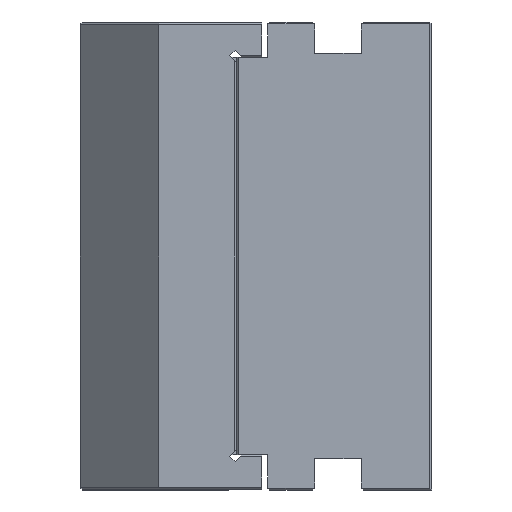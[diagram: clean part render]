
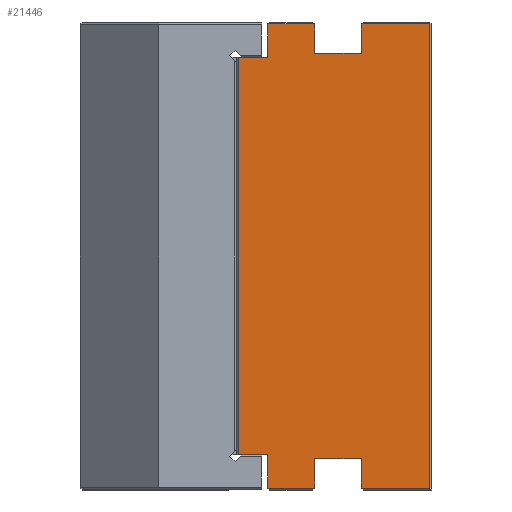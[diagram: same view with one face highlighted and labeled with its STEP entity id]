
A CAD part, left-side view. The second image highlights one B-rep face of the part: STEP entity #21446.
In plain terms, the highlighted planar face has unit normal (-1, 0, 0).
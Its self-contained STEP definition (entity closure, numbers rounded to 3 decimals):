
#47 = VERTEX_POINT ( 'NONE', #13740 ) ;
#470 = CARTESIAN_POINT ( 'NONE',  ( 0., 49.5, -51. ) ) ;
#1494 = DIRECTION ( 'NONE',  ( 1., 0., 0. ) ) ;
#1924 = VECTOR ( 'NONE', #12661, 1000. ) ;
#2490 = CARTESIAN_POINT ( 'NONE',  ( 0., 42., 60. ) ) ;
#2799 = VERTEX_POINT ( 'NONE', #8380 ) ;
#2819 = VECTOR ( 'NONE', #3204, 1000. ) ;
#2897 = ORIENTED_EDGE ( 'NONE', *, *, #5842, .T. ) ;
#2901 = CARTESIAN_POINT ( 'NONE',  ( 0., 30., 60. ) ) ;
#2968 = CARTESIAN_POINT ( 'NONE',  ( 0., 18., 52. ) ) ;
#3200 = DIRECTION ( 'NONE',  ( 0., 0., 1. ) ) ;
#3204 = DIRECTION ( 'NONE',  ( 0., 1., 0. ) ) ;
#3238 = ORIENTED_EDGE ( 'NONE', *, *, #16165, .T. ) ;
#3545 = VERTEX_POINT ( 'NONE', #16299 ) ;
#4046 = VECTOR ( 'NONE', #15109, 1000. ) ;
#4327 = ORIENTED_EDGE ( 'NONE', *, *, #11453, .F. ) ;
#4419 = VERTEX_POINT ( 'NONE', #20061 ) ;
#4963 = VERTEX_POINT ( 'NONE', #18406 ) ;
#5543 = LINE ( 'NONE', #22139, #15079 ) ;
#5594 = CARTESIAN_POINT ( 'NONE',  ( 0., 18., 59.5 ) ) ;
#5596 = CARTESIAN_POINT ( 'NONE',  ( 0., 30., -59.5 ) ) ;
#5842 = EDGE_CURVE ( 'NONE', #18936, #17801, #8728, .T. ) ;
#5887 = ORIENTED_EDGE ( 'NONE', *, *, #16866, .T. ) ;
#6045 = DIRECTION ( 'NONE',  ( 0., 0., -1. ) ) ;
#7034 = VERTEX_POINT ( 'NONE', #21805 ) ;
#7165 = VERTEX_POINT ( 'NONE', #15033 ) ;
#7184 = EDGE_CURVE ( 'NONE', #4963, #47, #18914, .T. ) ;
#7319 = VECTOR ( 'NONE', #12259, 1000. ) ;
#7420 = VECTOR ( 'NONE', #21899, 1000. ) ;
#7544 = VECTOR ( 'NONE', #21159, 1000. ) ;
#8115 = ORIENTED_EDGE ( 'NONE', *, *, #18442, .T. ) ;
#8127 = CARTESIAN_POINT ( 'NONE',  ( 0., 30., 59.5 ) ) ;
#8129 = EDGE_CURVE ( 'NONE', #4419, #17801, #11912, .T. ) ;
#8179 = VECTOR ( 'NONE', #16326, 1000. ) ;
#8214 = EDGE_CURVE ( 'NONE', #18936, #22404, #9100, .T. ) ;
#8380 = CARTESIAN_POINT ( 'NONE',  ( 0., 49.5, 51. ) ) ;
#8528 = LINE ( 'NONE', #16672, #13257 ) ;
#8562 = CARTESIAN_POINT ( 'NONE',  ( 0., 42., -60. ) ) ;
#8662 = EDGE_CURVE ( 'NONE', #18942, #7165, #14091, .T. ) ;
#8676 = VECTOR ( 'NONE', #3200, 1000. ) ;
#8728 = LINE ( 'NONE', #5596, #8179 ) ;
#9032 = ORIENTED_EDGE ( 'NONE', *, *, #15186, .F. ) ;
#9100 = LINE ( 'NONE', #8562, #18050 ) ;
#9728 = EDGE_CURVE ( 'NONE', #18942, #47, #17108, .T. ) ;
#9754 = FACE_OUTER_BOUND ( 'NONE', #20829, .T. ) ;
#9799 = ORIENTED_EDGE ( 'NONE', *, *, #18302, .F. ) ;
#9813 = EDGE_CURVE ( 'NONE', #2799, #4963, #18496, .T. ) ;
#9877 = ORIENTED_EDGE ( 'NONE', *, *, #11313, .T. ) ;
#10251 = AXIS2_PLACEMENT_3D ( 'NONE', #22870, #1494, #14009 ) ;
#10462 = ORIENTED_EDGE ( 'NONE', *, *, #8129, .F. ) ;
#10479 = CARTESIAN_POINT ( 'NONE',  ( 0., 0., -59.5 ) ) ;
#10785 = CARTESIAN_POINT ( 'NONE',  ( 0., 18., -60. ) ) ;
#10895 = ORIENTED_EDGE ( 'NONE', *, *, #7184, .F. ) ;
#10919 = VERTEX_POINT ( 'NONE', #2968 ) ;
#11285 = VERTEX_POINT ( 'NONE', #13506 ) ;
#11313 = EDGE_CURVE ( 'NONE', #22672, #7034, #17059, .T. ) ;
#11453 = EDGE_CURVE ( 'NONE', #22672, #11285, #11458, .T. ) ;
#11458 = LINE ( 'NONE', #10785, #1924 ) ;
#11650 = CARTESIAN_POINT ( 'NONE',  ( 0., 42., -59.5 ) ) ;
#11712 = VECTOR ( 'NONE', #20663, 1000. ) ;
#11912 = LINE ( 'NONE', #13717, #20842 ) ;
#12157 = DIRECTION ( 'NONE',  ( 0., 0., 1. ) ) ;
#12259 = DIRECTION ( 'NONE',  ( 0., 1., 0. ) ) ;
#12261 = CARTESIAN_POINT ( 'NONE',  ( 0., 42., -51. ) ) ;
#12265 = LINE ( 'NONE', #15284, #11712 ) ;
#12661 = DIRECTION ( 'NONE',  ( 0., 0., 1. ) ) ;
#13115 = EDGE_CURVE ( 'NONE', #22404, #17381, #8528, .T. ) ;
#13257 = VECTOR ( 'NONE', #20260, 1000. ) ;
#13288 = CARTESIAN_POINT ( 'NONE',  ( 0., 0., 59.5 ) ) ;
#13355 = ORIENTED_EDGE ( 'NONE', *, *, #16967, .F. ) ;
#13506 = CARTESIAN_POINT ( 'NONE',  ( 0., 18., -52. ) ) ;
#13522 = VECTOR ( 'NONE', #15334, 1000. ) ;
#13563 = LINE ( 'NONE', #13288, #4046 ) ;
#13717 = CARTESIAN_POINT ( 'NONE',  ( 0., 30., -60. ) ) ;
#13734 = VECTOR ( 'NONE', #19450, 1000. ) ;
#13740 = CARTESIAN_POINT ( 'NONE',  ( 0., 42., 59.5 ) ) ;
#13807 = VERTEX_POINT ( 'NONE', #5594 ) ;
#13861 = LINE ( 'NONE', #14792, #7420 ) ;
#14009 = DIRECTION ( 'NONE',  ( 0., 0., -1. ) ) ;
#14091 = LINE ( 'NONE', #2901, #13522 ) ;
#14792 = CARTESIAN_POINT ( 'NONE',  ( 0., 18., 60. ) ) ;
#15033 = CARTESIAN_POINT ( 'NONE',  ( 0., 30., 52. ) ) ;
#15040 = ORIENTED_EDGE ( 'NONE', *, *, #8214, .F. ) ;
#15079 = VECTOR ( 'NONE', #6045, 1000. ) ;
#15109 = DIRECTION ( 'NONE',  ( 0., 1., 0. ) ) ;
#15186 = EDGE_CURVE ( 'NONE', #11285, #4419, #21580, .T. ) ;
#15284 = CARTESIAN_POINT ( 'NONE',  ( 0., 18., 52. ) ) ;
#15334 = DIRECTION ( 'NONE',  ( 0., 0., -1. ) ) ;
#15462 = ORIENTED_EDGE ( 'NONE', *, *, #8662, .F. ) ;
#15699 = CARTESIAN_POINT ( 'NONE',  ( 0., 0., 59.5 ) ) ;
#16165 = EDGE_CURVE ( 'NONE', #7034, #3545, #18180, .T. ) ;
#16299 = CARTESIAN_POINT ( 'NONE',  ( 0., 0.5, 59.5 ) ) ;
#16326 = DIRECTION ( 'NONE',  ( 0., -1., 0. ) ) ;
#16672 = CARTESIAN_POINT ( 'NONE',  ( 0., 42., -51. ) ) ;
#16814 = DIRECTION ( 'NONE',  ( 0., 0., 1. ) ) ;
#16866 = EDGE_CURVE ( 'NONE', #2799, #17381, #5543, .T. ) ;
#16967 = EDGE_CURVE ( 'NONE', #7165, #10919, #12265, .T. ) ;
#17059 = LINE ( 'NONE', #10479, #7544 ) ;
#17108 = LINE ( 'NONE', #15699, #2819 ) ;
#17334 = ORIENTED_EDGE ( 'NONE', *, *, #13115, .F. ) ;
#17381 = VERTEX_POINT ( 'NONE', #470 ) ;
#17440 = CARTESIAN_POINT ( 'NONE',  ( 0., 0.5, 60. ) ) ;
#17585 = CARTESIAN_POINT ( 'NONE',  ( 0., 18., -52. ) ) ;
#17658 = ORIENTED_EDGE ( 'NONE', *, *, #9728, .T. ) ;
#17801 = VERTEX_POINT ( 'NONE', #19823 ) ;
#18050 = VECTOR ( 'NONE', #12157, 1000. ) ;
#18180 = LINE ( 'NONE', #17440, #8676 ) ;
#18302 = EDGE_CURVE ( 'NONE', #10919, #13807, #13861, .T. ) ;
#18406 = CARTESIAN_POINT ( 'NONE',  ( 0., 42., 51. ) ) ;
#18442 = EDGE_CURVE ( 'NONE', #3545, #13807, #13563, .T. ) ;
#18496 = LINE ( 'NONE', #21237, #13734 ) ;
#18660 = CARTESIAN_POINT ( 'NONE',  ( 0., 18., -59.5 ) ) ;
#18914 = LINE ( 'NONE', #2490, #23051 ) ;
#18936 = VERTEX_POINT ( 'NONE', #11650 ) ;
#18942 = VERTEX_POINT ( 'NONE', #8127 ) ;
#19450 = DIRECTION ( 'NONE',  ( 0., -1., 0. ) ) ;
#19823 = CARTESIAN_POINT ( 'NONE',  ( 0., 30., -59.5 ) ) ;
#20061 = CARTESIAN_POINT ( 'NONE',  ( 0., 30., -52. ) ) ;
#20260 = DIRECTION ( 'NONE',  ( 0., 1., 0. ) ) ;
#20663 = DIRECTION ( 'NONE',  ( 0., -1., 0. ) ) ;
#20829 = EDGE_LOOP ( 'NONE', ( #22434, #5887, #17334, #15040, #2897, #10462, #9032, #4327, #9877, #3238, #8115, #9799, #13355, #15462, #17658, #10895 ) ) ;
#20842 = VECTOR ( 'NONE', #22593, 1000. ) ;
#21121 = PLANE ( 'NONE',  #10251 ) ;
#21159 = DIRECTION ( 'NONE',  ( 0., -1., 0. ) ) ;
#21237 = CARTESIAN_POINT ( 'NONE',  ( 0., 42., 51. ) ) ;
#21446 = ADVANCED_FACE ( 'NONE', ( #9754 ), #21121, .F. ) ;
#21580 = LINE ( 'NONE', #17585, #7319 ) ;
#21805 = CARTESIAN_POINT ( 'NONE',  ( 0., 0.5, -59.5 ) ) ;
#21899 = DIRECTION ( 'NONE',  ( 0., 0., 1. ) ) ;
#22139 = CARTESIAN_POINT ( 'NONE',  ( 0., 49.5, 60. ) ) ;
#22404 = VERTEX_POINT ( 'NONE', #12261 ) ;
#22434 = ORIENTED_EDGE ( 'NONE', *, *, #9813, .F. ) ;
#22593 = DIRECTION ( 'NONE',  ( 0., 0., -1. ) ) ;
#22672 = VERTEX_POINT ( 'NONE', #18660 ) ;
#22870 = CARTESIAN_POINT ( 'NONE',  ( 0., 0., 60. ) ) ;
#23051 = VECTOR ( 'NONE', #16814, 1000. ) ;
